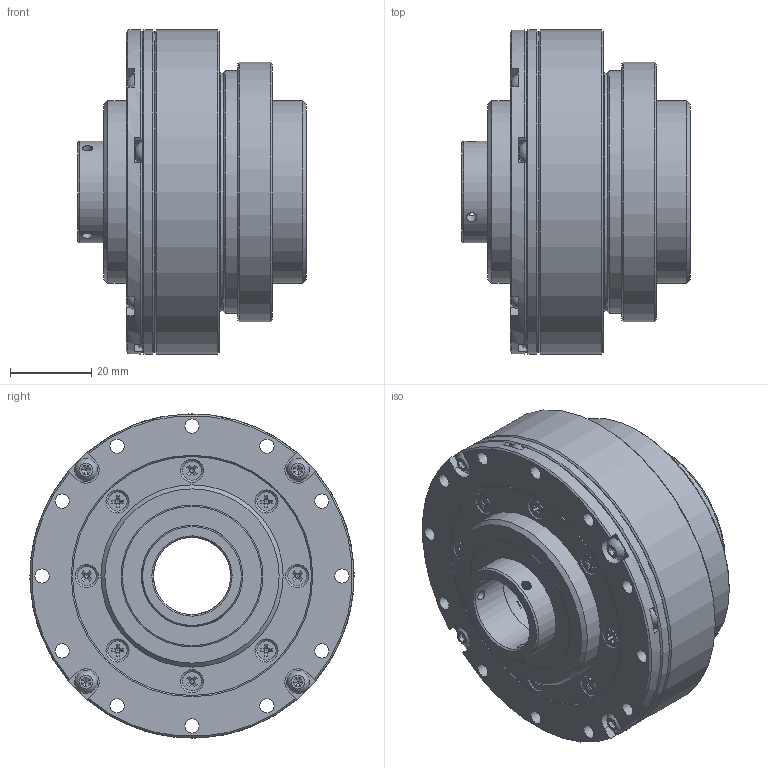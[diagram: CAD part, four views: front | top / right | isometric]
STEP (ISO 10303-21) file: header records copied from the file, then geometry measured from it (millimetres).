
FILE_DESCRIPTION (( 'STEP AP203' ), '1' );
FILE_NAME ('LHSG-17-XXX-C-III-S0-D0.STEP', '2025-07-14T11:07:19', ( '' ), ( '' ), 'SwSTEP 2.0', 'SolidWorks 2023', '' );
FILE_SCHEMA (( 'CONFIG_CONTROL_DESIGN' ));
Length unit declared in the file: millimetre
Products named in the file (1): LHSG-17-XXX-C-III-S0-D0
Bounding box: 56.5 x 80 x 80 mm (x, y, z)
Volume: 129511 mm3; surface area: 113971.6 mm2
Topology: 63 solids, 63 shells, 1346 faces, 3523 edges, 2214 vertices
Faces by surface type: plane 541, cylinder 321, cone 210, torus 181, sphere 93
Full cylindrical faces by diameter (mm): 2 x1, 2.05 x8, 2.5 x39, 3 x20, 3.5 x72, 3.7 x16, 3.8 x1, 4.7 x8, 5.5 x4, 6 x4, 19 x2, 19.5 x1, 23.9 x1, 24 x1, 24.5 x2, 25 x7, 27 x1, 28 x1, 29 x6, 29.4 x1, 30 x2, 30.2 x1, 32.5 x1, 32.53 x2, 32.6 x2, 33 x4, 33.23 x1, 34 x1, 34.8 x1, 35 x4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
Entity records: 40353 total; most frequent: CARTESIAN_POINT 10617, DIRECTION 6150, ORIENTED_EDGE 5476, EDGE_CURVE 2738, AXIS2_PLACEMENT_3D 2691, EDGE_LOOP 2172, VERTEX_POINT 1970, FACE_OUTER_BOUND 1591
